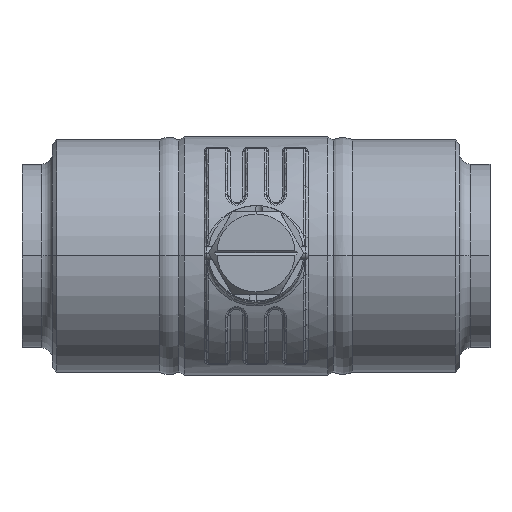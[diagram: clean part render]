
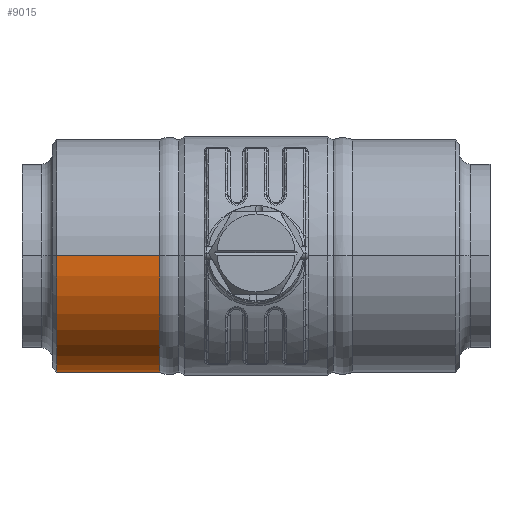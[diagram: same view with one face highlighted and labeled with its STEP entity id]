
A CAD part, top view. The second image highlights one B-rep face of the part: STEP entity #9015.
In plain terms, the highlighted cylindrical face has radius 26.8 mm (diameter 53.6 mm), a partial arc.
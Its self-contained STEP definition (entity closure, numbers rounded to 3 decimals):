
#2173=CARTESIAN_POINT('',(-22.194,0.,0.));
#2174=DIRECTION('',(1.,0.,0.));
#2175=DIRECTION('',(0.,0.,1.));
#2176=AXIS2_PLACEMENT_3D('',#2173,#2174,#2175);
#2178=CARTESIAN_POINT('',(-46.,0.,0.));
#2179=DIRECTION('',(1.,0.,0.));
#2180=DIRECTION('',(0.,0.,1.));
#2181=AXIS2_PLACEMENT_3D('',#2178,#2179,#2180);
#2216=DIRECTION('',(1.,0.,0.));
#2217=VECTOR('',#2216,23.806);
#2218=CARTESIAN_POINT('',(-46.,0.,26.8));
#2219=LINE('',#2218,#2217);
#2225=DIRECTION('',(1.,0.,0.));
#2226=VECTOR('',#2225,23.806);
#2227=CARTESIAN_POINT('',(-46.,0.,-26.8));
#2228=LINE('',#2227,#2226);
#6018=CARTESIAN_POINT('',(-46.,0.,26.8));
#6019=CARTESIAN_POINT('',(-46.,0.,-26.8));
#6020=VERTEX_POINT('',#6018);
#6021=VERTEX_POINT('',#6019);
#6306=CARTESIAN_POINT('',(-22.194,0.,26.8));
#6307=CARTESIAN_POINT('',(-22.194,0.,-26.8));
#6308=VERTEX_POINT('',#6306);
#6309=VERTEX_POINT('',#6307);
#9001=CARTESIAN_POINT('',(-55.9,0.,0.));
#9002=DIRECTION('',(1.,0.,0.));
#9003=DIRECTION('',(0.,0.,1.));
#9004=AXIS2_PLACEMENT_3D('',#9001,#9002,#9003);
#9005=CYLINDRICAL_SURFACE('',#9004,26.8);
#9007=ORIENTED_EDGE('',*,*,#9006,.T.);
#9009=ORIENTED_EDGE('',*,*,#9008,.F.);
#9010=ORIENTED_EDGE('',*,*,#8991,.F.);
#9012=ORIENTED_EDGE('',*,*,#9011,.T.);
#9013=EDGE_LOOP('',(#9007,#9009,#9010,#9012));
#9014=FACE_OUTER_BOUND('',#9013,.F.);
#2177=CIRCLE('',#2176,26.8);
#2182=CIRCLE('',#2181,26.8);
#8991=EDGE_CURVE('',#6020,#6021,#2182,.T.);
#9006=EDGE_CURVE('',#6308,#6309,#2177,.T.);
#9008=EDGE_CURVE('',#6021,#6309,#2228,.T.);
#9011=EDGE_CURVE('',#6020,#6308,#2219,.T.);
#9015=ADVANCED_FACE('',(#9014),#9005,.T.);
